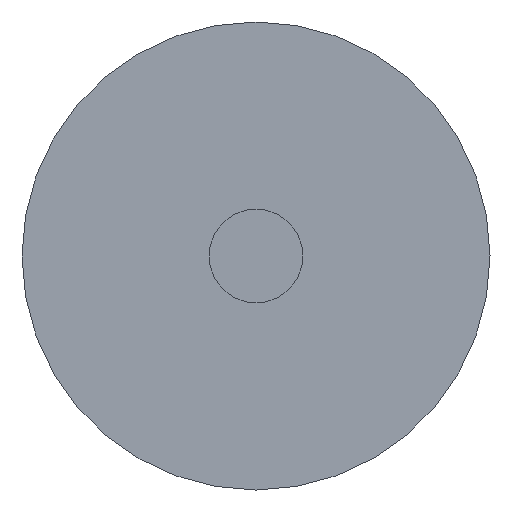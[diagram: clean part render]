
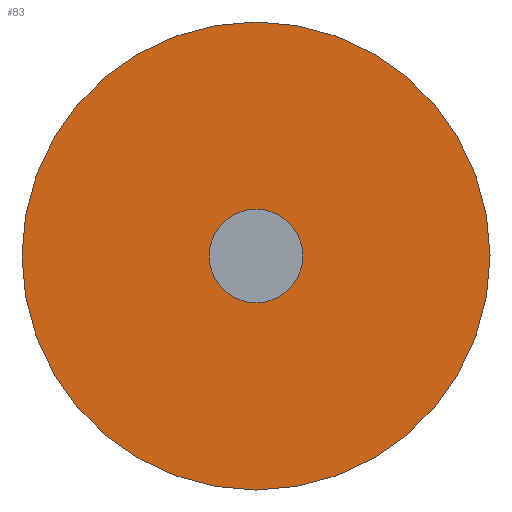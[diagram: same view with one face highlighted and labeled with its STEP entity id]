
A CAD part, left-side view. The second image highlights one B-rep face of the part: STEP entity #83.
In plain terms, the highlighted planar face has unit normal (-1, 0, 0).
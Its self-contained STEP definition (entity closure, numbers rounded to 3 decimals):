
#19=PLANE('',#98);
#29=FACE_OUTER_BOUND('',#39,.T.);
#39=EDGE_LOOP('',(#69));
#50=CIRCLE('',#97,2.);
#56=VERTEX_POINT('',#146);
#62=EDGE_CURVE('',#56,#56,#50,.T.);
#69=ORIENTED_EDGE('',*,*,#62,.T.);
#83=ADVANCED_FACE('',(#29),#19,.F.);
#97=AXIS2_PLACEMENT_3D('',#147,#116,#117);
#98=AXIS2_PLACEMENT_3D('',#148,#118,#119);
#116=DIRECTION('center_axis',(-1.,0.,0.));
#117=DIRECTION('ref_axis',(0.,-1.,0.));
#118=DIRECTION('center_axis',(1.,0.,0.));
#119=DIRECTION('ref_axis',(0.,0.,-1.));
#146=CARTESIAN_POINT('',(0.,2.,0.));
#147=CARTESIAN_POINT('Origin',(0.,0.,0.));
#148=CARTESIAN_POINT('Origin',(0.,0.,0.));
